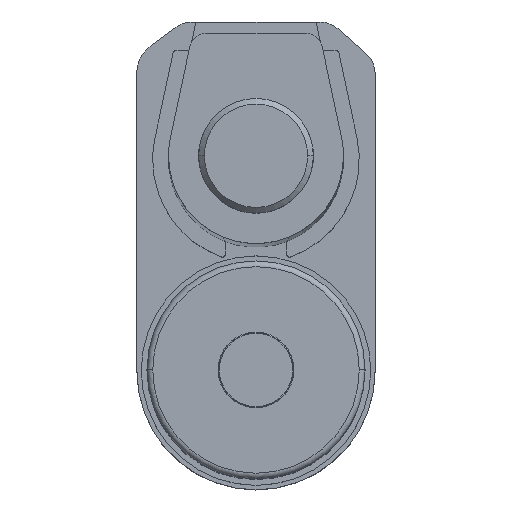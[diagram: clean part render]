
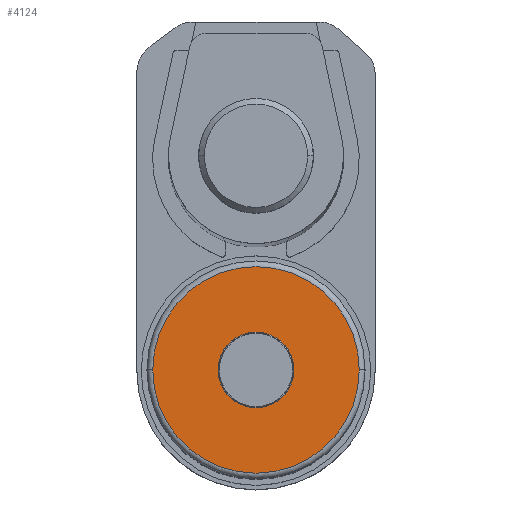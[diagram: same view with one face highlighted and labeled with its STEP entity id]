
A CAD part, top view. The second image highlights one B-rep face of the part: STEP entity #4124.
In plain terms, the highlighted planar face has unit normal (0, 0, 1).
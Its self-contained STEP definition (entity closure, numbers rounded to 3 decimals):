
#245 = DIRECTION ( 'NONE',  ( 0., 0., 1. ) ) ;
#416 = VERTEX_POINT ( 'NONE', #4802 ) ;
#433 = AXIS2_PLACEMENT_3D ( 'NONE', #2778, #245, #3201 ) ;
#494 = CARTESIAN_POINT ( 'NONE',  ( 0., -20.751, 93. ) ) ;
#582 = PLANE ( 'NONE',  #2814 ) ;
#583 = CARTESIAN_POINT ( 'NONE',  ( 0., -20.751, 93. ) ) ;
#660 = EDGE_CURVE ( 'NONE', #416, #2658, #2970, .T. ) ;
#876 = CARTESIAN_POINT ( 'NONE',  ( -6.6, -20.751, 93. ) ) ;
#921 = DIRECTION ( 'NONE',  ( 1., 0., 0. ) ) ;
#944 = CARTESIAN_POINT ( 'NONE',  ( 0., -20.751, 93. ) ) ;
#1017 = DIRECTION ( 'NONE',  ( 1., 0., 0. ) ) ;
#1064 = CIRCLE ( 'NONE', #2365, 18. ) ;
#1307 = EDGE_LOOP ( 'NONE', ( #3279, #2786 ) ) ;
#1375 = DIRECTION ( 'NONE',  ( 1., 0., 0. ) ) ;
#1424 = CARTESIAN_POINT ( 'NONE',  ( 18., -20.751, 93. ) ) ;
#1443 = DIRECTION ( 'NONE',  ( 1., 0., 0. ) ) ;
#1787 = AXIS2_PLACEMENT_3D ( 'NONE', #494, #3471, #921 ) ;
#1842 = VERTEX_POINT ( 'NONE', #4261 ) ;
#1870 = VERTEX_POINT ( 'NONE', #876 ) ;
#2365 = AXIS2_PLACEMENT_3D ( 'NONE', #944, #3927, #1375 ) ;
#2495 = CIRCLE ( 'NONE', #2874, 6.6 ) ;
#2658 = VERTEX_POINT ( 'NONE', #1424 ) ;
#2673 = EDGE_CURVE ( 'NONE', #1842, #1870, #2495, .T. ) ;
#2778 = CARTESIAN_POINT ( 'NONE',  ( 0., -20.751, 93. ) ) ;
#2786 = ORIENTED_EDGE ( 'NONE', *, *, #5443, .T. ) ;
#2814 = AXIS2_PLACEMENT_3D ( 'NONE', #3562, #3997, #1443 ) ;
#2874 = AXIS2_PLACEMENT_3D ( 'NONE', #583, #3567, #1017 ) ;
#2876 = ORIENTED_EDGE ( 'NONE', *, *, #5487, .T. ) ;
#2970 = CIRCLE ( 'NONE', #433, 18. ) ;
#3071 = FACE_OUTER_BOUND ( 'NONE', #5472, .T. ) ;
#3201 = DIRECTION ( 'NONE',  ( 1., 0., 0. ) ) ;
#3279 = ORIENTED_EDGE ( 'NONE', *, *, #2673, .T. ) ;
#3452 = CIRCLE ( 'NONE', #1787, 6.6 ) ;
#3471 = DIRECTION ( 'NONE',  ( 0., 0., -1. ) ) ;
#3562 = CARTESIAN_POINT ( 'NONE',  ( 0., -20.751, 93. ) ) ;
#3567 = DIRECTION ( 'NONE',  ( 0., 0., -1. ) ) ;
#3799 = FACE_BOUND ( 'NONE', #1307, .T. ) ;
#3927 = DIRECTION ( 'NONE',  ( 0., 0., 1. ) ) ;
#3997 = DIRECTION ( 'NONE',  ( 0., 0., 1. ) ) ;
#4124 = ADVANCED_FACE ( 'NONE', ( #3799, #3071 ), #582, .T. ) ;
#4261 = CARTESIAN_POINT ( 'NONE',  ( 6.6, -20.751, 93. ) ) ;
#4802 = CARTESIAN_POINT ( 'NONE',  ( -18., -20.751, 93. ) ) ;
#5118 = ORIENTED_EDGE ( 'NONE', *, *, #660, .T. ) ;
#5443 = EDGE_CURVE ( 'NONE', #1870, #1842, #3452, .T. ) ;
#5472 = EDGE_LOOP ( 'NONE', ( #2876, #5118 ) ) ;
#5487 = EDGE_CURVE ( 'NONE', #2658, #416, #1064, .T. ) ;
